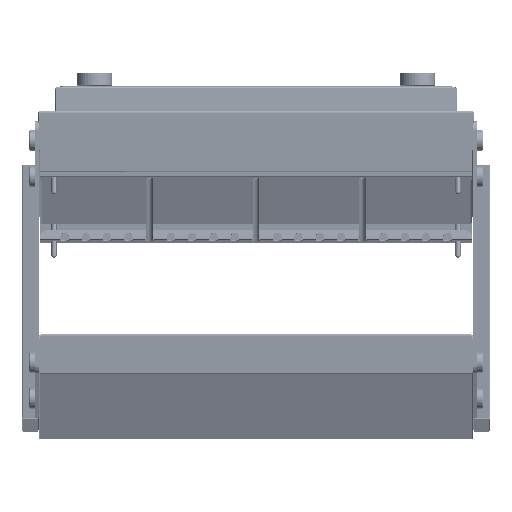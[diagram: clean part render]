
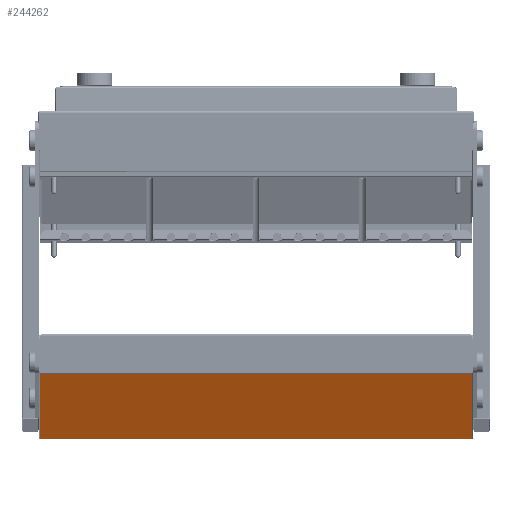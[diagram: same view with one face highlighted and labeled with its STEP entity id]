
A CAD part, front view. The second image highlights one B-rep face of the part: STEP entity #244262.
In plain terms, the highlighted planar face has unit normal (0, -0.122, -0.993).
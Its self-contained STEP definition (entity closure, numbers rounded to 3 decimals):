
#8227 = ORIENTED_EDGE ( 'NONE', *, *, #138425, .T. ) ;
#14398 = VECTOR ( 'NONE', #63639, 1000. ) ;
#21341 = VECTOR ( 'NONE', #178481, 1000. ) ;
#26237 = DIRECTION ( 'NONE',  ( 0., -0.122, -0.993 ) ) ;
#34701 = ORIENTED_EDGE ( 'NONE', *, *, #224245, .T. ) ;
#43987 = LINE ( 'NONE', #204690, #206158 ) ;
#54786 = VERTEX_POINT ( 'NONE', #135330 ) ;
#62447 = VERTEX_POINT ( 'NONE', #157056 ) ;
#63639 = DIRECTION ( 'NONE',  ( -1., 0., 0. ) ) ;
#65641 = EDGE_LOOP ( 'NONE', ( #174309, #8227, #34701, #123932 ) ) ;
#67146 = AXIS2_PLACEMENT_3D ( 'NONE', #200056, #26237, #239399 ) ;
#80834 = PLANE ( 'NONE',  #67146 ) ;
#82554 = EDGE_CURVE ( 'NONE', #169435, #54786, #120790, .T. ) ;
#99774 = LINE ( 'NONE', #177206, #21341 ) ;
#103606 = FACE_OUTER_BOUND ( 'NONE', #65641, .T. ) ;
#108712 = LINE ( 'NONE', #189850, #177302 ) ;
#120790 = LINE ( 'NONE', #218459, #14398 ) ;
#123932 = ORIENTED_EDGE ( 'NONE', *, *, #203922, .T. ) ;
#129617 = VERTEX_POINT ( 'NONE', #202154 ) ;
#129944 = CARTESIAN_POINT ( 'NONE',  ( 253.8, -573.198, -284.422 ) ) ;
#135330 = CARTESIAN_POINT ( 'NONE',  ( -253.8, -573.198, -284.422 ) ) ;
#138425 = EDGE_CURVE ( 'NONE', #54786, #62447, #43987, .T. ) ;
#157056 = CARTESIAN_POINT ( 'NONE',  ( -253.8, 55.607, -361.63 ) ) ;
#169435 = VERTEX_POINT ( 'NONE', #129944 ) ;
#174309 = ORIENTED_EDGE ( 'NONE', *, *, #82554, .T. ) ;
#177206 = CARTESIAN_POINT ( 'NONE',  ( -253.8, 55.607, -361.63 ) ) ;
#177302 = VECTOR ( 'NONE', #229152, 1000. ) ;
#178481 = DIRECTION ( 'NONE',  ( 1., 0., 0. ) ) ;
#189850 = CARTESIAN_POINT ( 'NONE',  ( 253.8, 55.607, -361.63 ) ) ;
#198786 = DIRECTION ( 'NONE',  ( 0., 0.993, -0.122 ) ) ;
#200056 = CARTESIAN_POINT ( 'NONE',  ( -255., -574.128, -284.308 ) ) ;
#202154 = CARTESIAN_POINT ( 'NONE',  ( 253.8, 55.607, -361.63 ) ) ;
#203922 = EDGE_CURVE ( 'NONE', #129617, #169435, #108712, .T. ) ;
#204690 = CARTESIAN_POINT ( 'NONE',  ( -253.8, -573.198, -284.422 ) ) ;
#206158 = VECTOR ( 'NONE', #198786, 1000. ) ;
#218459 = CARTESIAN_POINT ( 'NONE',  ( 253.8, -573.198, -284.422 ) ) ;
#224245 = EDGE_CURVE ( 'NONE', #62447, #129617, #99774, .T. ) ;
#229152 = DIRECTION ( 'NONE',  ( 0., -0.993, 0.122 ) ) ;
#239399 = DIRECTION ( 'NONE',  ( -1., 0., 0. ) ) ;
#244262 = ADVANCED_FACE ( 'NONE', ( #103606 ), #80834, .T. ) ;
